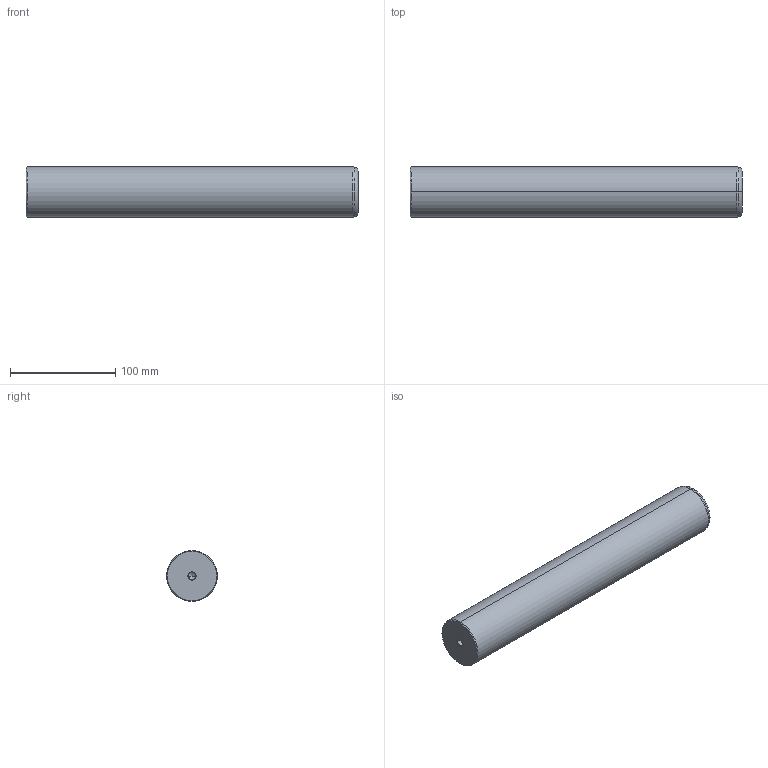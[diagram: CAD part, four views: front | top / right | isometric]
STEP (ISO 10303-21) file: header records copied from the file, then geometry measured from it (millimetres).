
FILE_DESCRIPTION(('CATIA V5 STEP Exchange'),'2;1');
FILE_NAME('C:\Users\Utente\Desktop\IO LAVORO\3D X SITO CF\X SITO\720\720-48x315.stp','2020-12-30T21:49:07+00:00',('none'),('none'),'CATIA Version 5 Release 20 GA (IN-10)','CATIA V5 STEP AP203','none');
FILE_SCHEMA(('CONFIG_CONTROL_DESIGN'));
Length unit declared in the file: millimetre
Products named in the file (1): 720-48x315
Bounding box: 315 x 48 x 48 mm (x, y, z)
Volume: 567500 mm3; surface area: 51728.3 mm2
Topology: 1 solids, 1 shells, 22 faces, 62 edges, 40 vertices
Faces by surface type: cone 12, cylinder 6, plane 2, torus 2
Entity records: 806 total; most frequent: CARTESIAN_POINT 229, ORIENTED_EDGE 116, DIRECTION 93, EDGE_CURVE 58, AXIS2_PLACEMENT_3D 54, VERTEX_POINT 40, CIRCLE 31, EDGE_LOOP 24
